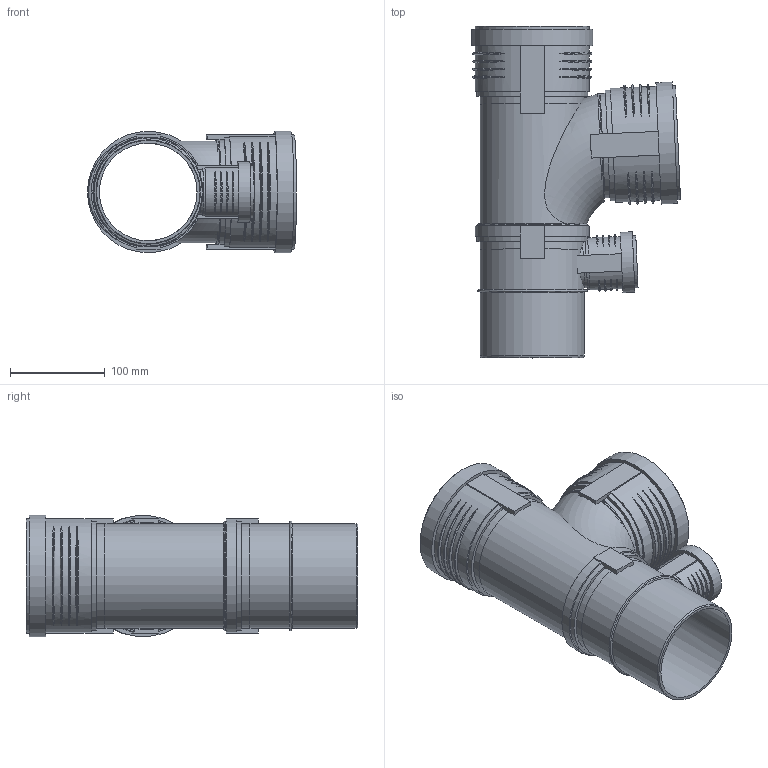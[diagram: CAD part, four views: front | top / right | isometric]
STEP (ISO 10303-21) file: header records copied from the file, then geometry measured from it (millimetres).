
FILE_DESCRIPTION(/* description */ (''),/* implementation_level */ '2;1');
FILE_NAME(/* name */ 'Z:\Geberit\Export\Export18\Kombiabzweig PP-MD_Iassembly\stp\390558.stp',/* time_stamp */ '2014-08-26T20:14:24+02:00',/* author */ ('ML'),/* organization */ (''),/* preprocessor_version */ 'ST-DEVELOPER v15.2',/* originating_system */ 'Autodesk Inventor 2014',/* authorisation */ '');
FILE_SCHEMA (('AUTOMOTIVE_DESIGN { 1 0 10303 214 3 1 1 }'));
Length unit declared in the file: millimetre
Products named in the file (11): 861360; 861401; 861404; 861739; 861363; 861404_1; 861740; 861738; 390558
Bounding box: 220.41 x 350 x 128.1 mm (x, y, z)
Volume: 666653.9 mm3; surface area: 399355.4 mm2
Topology: 6 solids, 6 shells, 220 faces, 539 edges, 370 vertices
Faces by surface type: torus 79, plane 77, cylinder 58, cone 6
Full cylindrical faces by diameter (mm): 46.15 x2, 50.15 x2, 51 x2, 55 x1, 59.7 x1, 63.7 x1, 103 x3, 103.2 x3, 110.2 x8, 113.3 x5, 120.3 x2, 121.1 x2, 128.1 x2
Entity records: 6570 total; most frequent: CARTESIAN_POINT 2612, DIRECTION 742, ORIENTED_EDGE 694, EDGE_CURVE 347, AXIS2_PLACEMENT_3D 317, VERTEX_POINT 259, EDGE_LOOP 246, STYLED_ITEM 168
